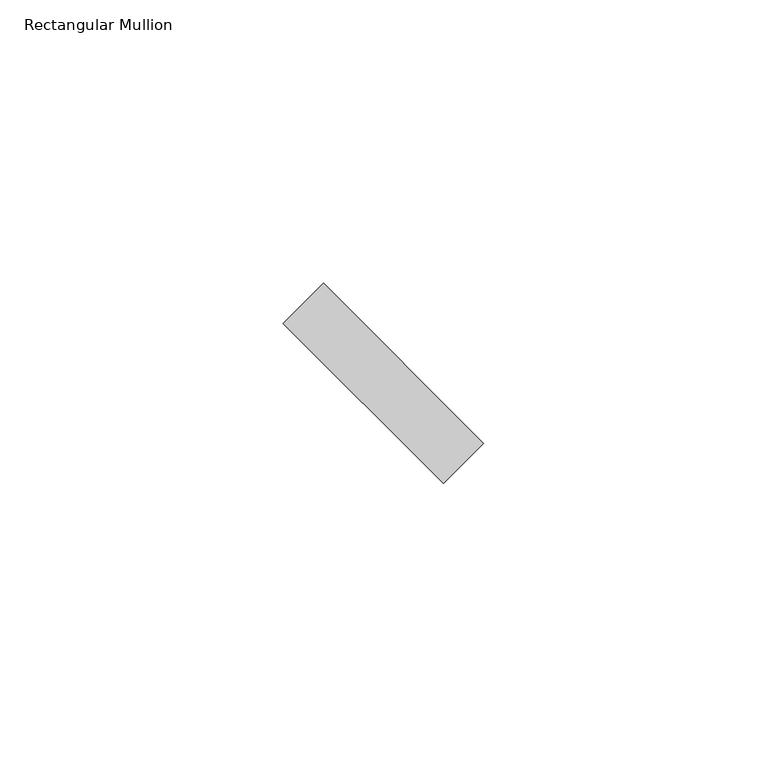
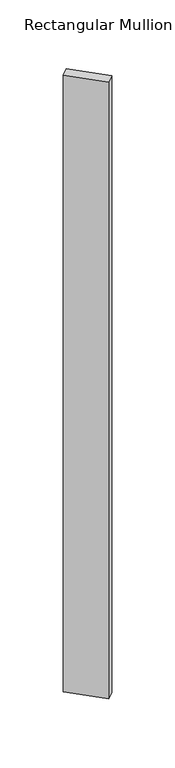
"""IFC4 building model written with IfcOpenShell, lengths in millimetres: member geometry, Rectangular Mullion : 1x4cm 45°."""

from ifc_helpers import new_model, si_unit, frame, origin, place, context, project, spatial, polyline, outline, extrude, source, transform, mapped, element, save


def rectangular_mullion_ff531f0f(model_context):
    return source(origin(), model_context, "Body", "SweptSolid", [
        extrude(outline(polyline([(-10.6066017, 17.6776695), (17.6776695, -10.6066017), (10.6066017, -17.6776695), (-17.6776695, 10.6066017), (-10.6066017, 17.6776695)])), frame((0.0, 0.0, -639.2393834), z_axis=(0.0, 0.0, 1.0), x_axis=(1.0, 0.0, 0.0)), (0.0, 0.0, 1.0), 639.2393834),
    ])


if __name__ == "__main__":
    model = new_model("IFC4")
    model_context = context("Model", 3, world=origin())
    ifc_project = project(units=[si_unit("LENGTHUNIT", "METRE", prefix="MILLI")], contexts=[model_context])
    site = spatial("IfcSite", under=ifc_project)
    building = spatial("IfcBuilding", under=site)
    placement = place(None, origin())
    rectangular_mullion_shape = rectangular_mullion_ff531f0f(model_context)
    element("IfcMember", 1, ObjectType="Rectangular Mullion : 1x4cm 45°", at=placement, inside=building, context=model_context, shape_type="MappedRepresentation", body=[
        mapped(rectangular_mullion_shape, transform((0.0, 0.0, 0.0), x_axis=(1.0, 0.0, 0.0), y_axis=(0.0, 1.0, 0.0), z_axis=(0.0, 0.0, 1.0))),
    ])
    save(model, "model.ifc")
